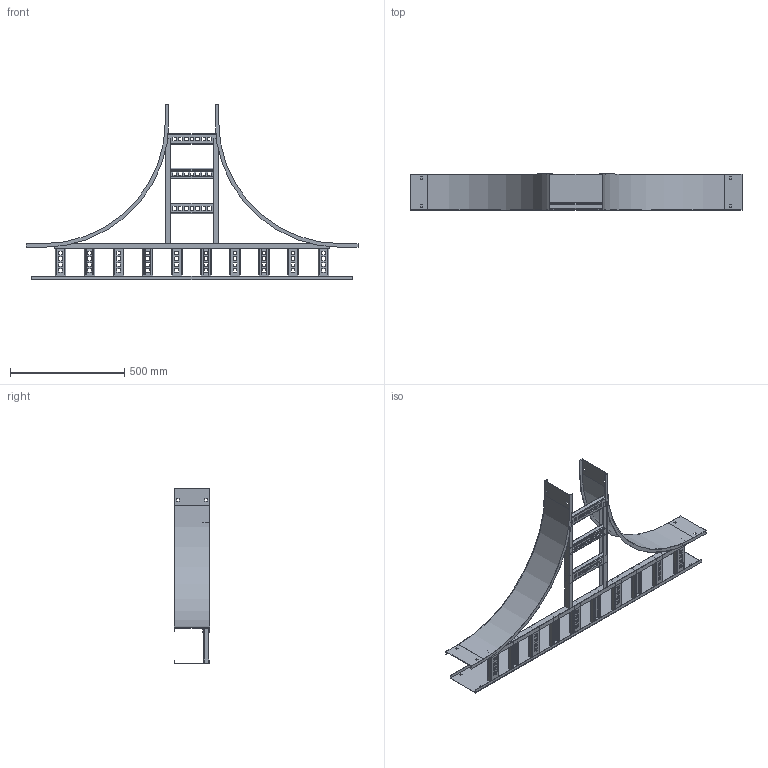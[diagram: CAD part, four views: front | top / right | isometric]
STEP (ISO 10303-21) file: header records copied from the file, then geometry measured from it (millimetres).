
FILE_DESCRIPTION((''),'2;1');
FILE_NAME('AUF60609VET24_ASM','2010-02-04T',('erouzier'),(''),'PRO/ENGINEER BY PARAMETRIC TECHNOLOGY CORPORATION, 2008510','PRO/ENGINEER BY PARAMETRIC TECHNOLOGY CORPORATION, 2008510','');
FILE_SCHEMA(('CONFIG_CONTROL_DESIGN'));
Length unit declared in the file: inch
Products named in the file (18): CDS001321-6-90-21-I; CDS013843_GEN; CDS000495_GEN_AF9; CDS002159L6-P_AF8; CDS002159L6-P_AF9; CDS002159L6-P_AF10; CDS002159L6-P_AF11; CDS002159L6-P; CDS002159L6-P_AF12; CDS002159L6-P_AF13; CDS002159L6-P_AF14; CDS002159L6-P_AF15; CDS000495_GEN_AF10; CDS000495_GEN_AF11; CDS002159L9-P_AF3; CDS002159L9-P_AF4; CDS002159L9-P_AF5; AUF60609VET24_ASM
Assembly tree (19 placements, depth 2):
  AUF60609VET24_ASM
    CDS001321-6-90-21-I  x2
    CDS013843_GEN
    CDS000495_GEN_AF9
    CDS002159L6-P_AF8
    CDS002159L6-P_AF9
    CDS002159L6-P_AF10
    CDS002159L6-P_AF11
    CDS002159L6-P  x2
    CDS002159L6-P_AF12
    CDS002159L6-P_AF13
    CDS002159L6-P_AF14
    CDS002159L6-P_AF15
    CDS000495_GEN_AF10
    CDS000495_GEN_AF11
    CDS002159L9-P_AF3
    CDS002159L9-P_AF4
    CDS002159L9-P_AF5
Bounding box: 1452.63 x 157.23 x 766.83 mm (x, y, z)
Volume: 2147988.2 mm3; surface area: 2059576.5 mm2
Topology: 19 solids, 19 shells, 1002 faces, 2892 edges, 1928 vertices
Faces by surface type: plane 607, cylinder 395
Entity records: 30555 total; most frequent: CARTESIAN_POINT 5303, ORIENTED_EDGE 5232, DIRECTION 5230, EDGE_CURVE 2616, VECTOR 1888, LINE 1888, VERTEX_POINT 1744, AXIS2_PLACEMENT_3D 1671
